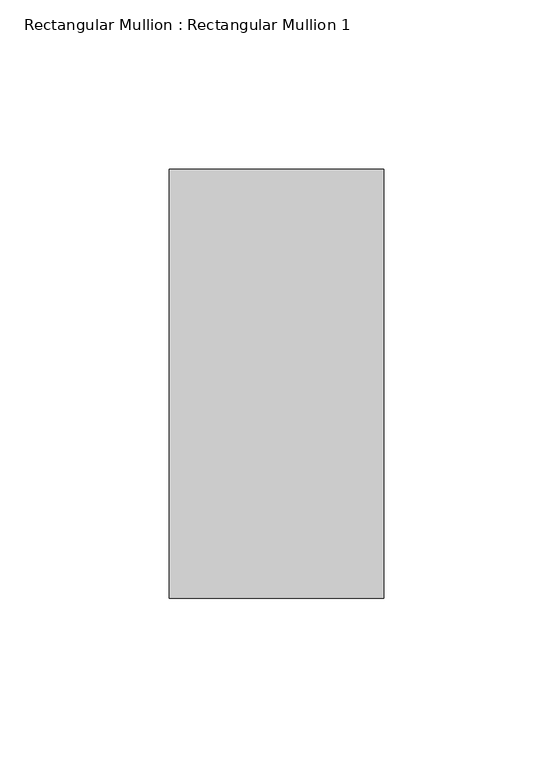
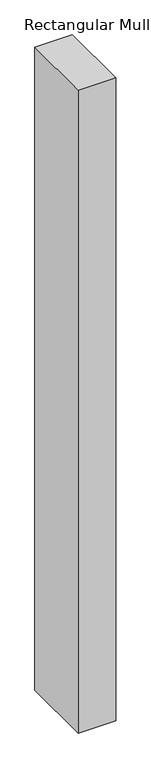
"""IFC4 building model written with IfcOpenShell, lengths in millimetres: member geometry, Rectangular Mullion : Rectangular Mullion 1."""

from ifc_helpers import new_model, si_unit, frame, origin, place, context, project, spatial, polyline, outline, extrude, source, transform, mapped, element, save


def rectangular_mullion_rectangular_mullion_1_691106c5(model_context):
    return source(origin(), model_context, "Body", "SweptSolid", [
        extrude(outline(polyline([(31.75, 63.5), (31.75, -63.5), (-31.75, -63.5), (-31.75, 63.5), (31.75, 63.5)])), frame((0.0, 0.0, -1150.6200002), z_axis=(0.0, 0.0, 1.0), x_axis=(1.0, 0.0, 0.0)), (0.0, 0.0, 1.0), 1150.6200002),
    ])


if __name__ == "__main__":
    model = new_model("IFC4")
    model_context = context("Model", 3, world=origin())
    ifc_project = project(units=[si_unit("LENGTHUNIT", "METRE", prefix="MILLI")], contexts=[model_context])
    site = spatial("IfcSite", under=ifc_project)
    building = spatial("IfcBuilding", under=site)
    placement = place(None, origin())
    rectangular_mullion_rectangular_mullion_1_shape = rectangular_mullion_rectangular_mullion_1_691106c5(model_context)
    element("IfcMember", 1, ObjectType="Rectangular Mullion : Rectangular Mullion 1", at=placement, inside=building, context=model_context, shape_type="MappedRepresentation", body=[
        mapped(rectangular_mullion_rectangular_mullion_1_shape, transform((0.0, 0.0, 0.0), x_axis=(1.0, 0.0, 0.0), y_axis=(0.0, 1.0, 0.0), z_axis=(0.0, 0.0, 1.0))),
    ])
    save(model, "model.ifc")
